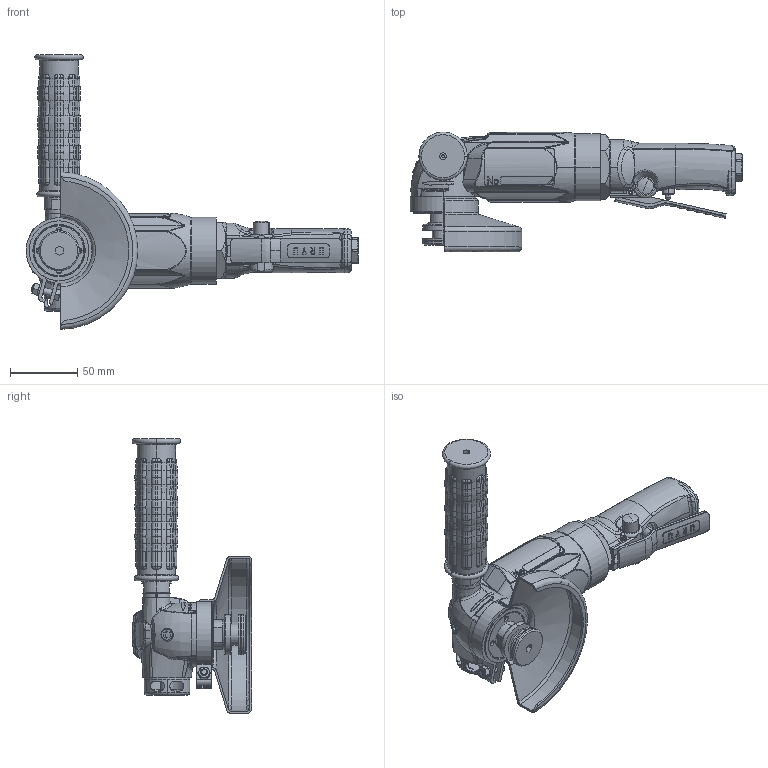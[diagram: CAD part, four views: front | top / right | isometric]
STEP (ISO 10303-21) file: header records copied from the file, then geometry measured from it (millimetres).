
FILE_DESCRIPTION (( 'STEP AP214' ), '1' );
FILE_NAME ('UAG-40SBL-136.STEP', '2021-11-09T02:30:20', ( 'GIKAI' ), ( 'Hewlett-Packard Company' ), 'SwSTEP 2.0', 'SolidWorks 2016', '' );
FILE_SCHEMA (( 'AUTOMOTIVE_DESIGN' ));
Length unit declared in the file: millimetre
Products named in the file (13): 593-107-3; 585-765-1; 596-014-7; 596-729-7; 566-720-2; 596-770-6; 596-780-7; 966-100-0; 596-025-8; 596-394-3; UAG-40SBL-136; 596-014-7CP; 554-090-7
Assembly tree (12 placements, depth 3):
  UAG-40SBL-136
    596-394-3
    596-025-8
    966-100-0
    596-780-7
    596-770-6
    566-720-2
    596-729-7
    596-014-7CP
      596-014-7
      585-765-1
      593-107-3
      554-090-7
Bounding box: 247.2 x 89 x 204.58 mm (x, y, z)
Volume: 232642.1 mm3; surface area: 144562.1 mm2
Topology: 9 solids, 16 shells, 1502 faces, 3677 edges, 2238 vertices
Faces by surface type: cylinder 536, torus 342, plane 319, bspline 163, cone 97, sphere 45
Entity records: 56557 total; most frequent: CARTESIAN_POINT 22347, ORIENTED_EDGE 7213, DIRECTION 6789, EDGE_CURVE 3623, AXIS2_PLACEMENT_3D 2884, VERTEX_POINT 2227, EDGE_LOOP 1610, CIRCLE 1528
